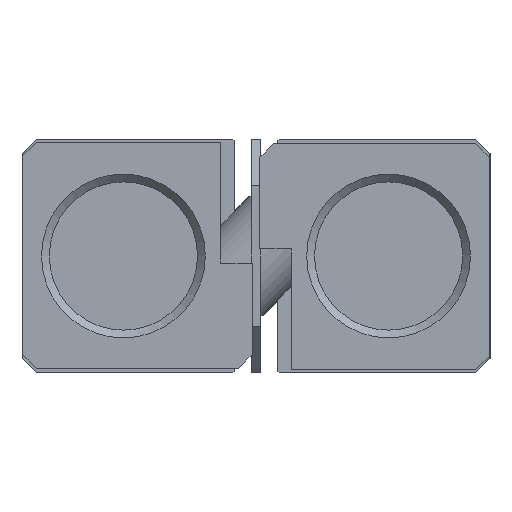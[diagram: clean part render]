
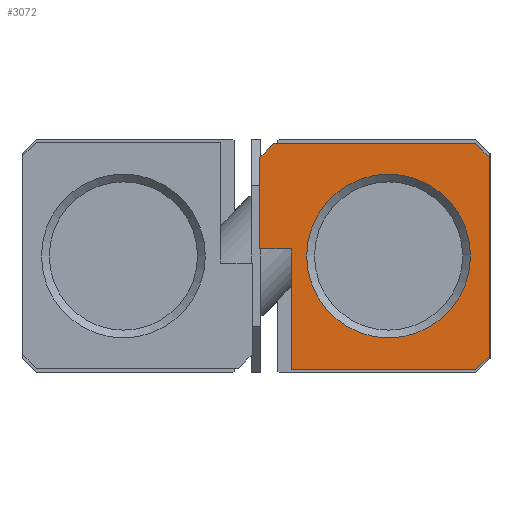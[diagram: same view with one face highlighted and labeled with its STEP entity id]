
A CAD part, left-side view. The second image highlights one B-rep face of the part: STEP entity #3072.
In plain terms, the highlighted planar face has unit normal (-1, 0, 0).
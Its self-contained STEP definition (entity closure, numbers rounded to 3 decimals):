
#124=CIRCLE('',#3279,5.25);
#312=ORIENTED_EDGE('',*,*,#1100,.F.);
#313=ORIENTED_EDGE('',*,*,#1082,.F.);
#314=ORIENTED_EDGE('',*,*,#1099,.F.);
#315=ORIENTED_EDGE('',*,*,#1097,.F.);
#316=ORIENTED_EDGE('',*,*,#1095,.F.);
#317=ORIENTED_EDGE('',*,*,#1093,.F.);
#318=ORIENTED_EDGE('',*,*,#1091,.F.);
#319=ORIENTED_EDGE('',*,*,#1089,.F.);
#320=ORIENTED_EDGE('',*,*,#1087,.F.);
#321=ORIENTED_EDGE('',*,*,#1085,.F.);
#1082=EDGE_CURVE('',#1489,#1490,#1797,.T.);
#1085=EDGE_CURVE('',#1490,#1491,#1800,.T.);
#1087=EDGE_CURVE('',#1491,#1492,#1802,.T.);
#1089=EDGE_CURVE('',#1492,#1493,#1804,.T.);
#1091=EDGE_CURVE('',#1493,#1494,#1806,.T.);
#1093=EDGE_CURVE('',#1494,#1495,#1808,.T.);
#1095=EDGE_CURVE('',#1495,#1496,#1810,.T.);
#1097=EDGE_CURVE('',#1496,#1497,#1812,.T.);
#1099=EDGE_CURVE('',#1497,#1489,#1814,.T.);
#1100=EDGE_CURVE('',#1498,#1498,#124,.T.);
#1489=VERTEX_POINT('',#4530);
#1490=VERTEX_POINT('',#4531);
#1491=VERTEX_POINT('',#4536);
#1492=VERTEX_POINT('',#4540);
#1493=VERTEX_POINT('',#4544);
#1494=VERTEX_POINT('',#4548);
#1495=VERTEX_POINT('',#4552);
#1496=VERTEX_POINT('',#4556);
#1497=VERTEX_POINT('',#4560);
#1498=VERTEX_POINT('',#4566);
#1797=LINE('',#4529,#2116);
#1800=LINE('',#4535,#2119);
#1802=LINE('',#4539,#2121);
#1804=LINE('',#4543,#2123);
#1806=LINE('',#4547,#2125);
#1808=LINE('',#4551,#2127);
#1810=LINE('',#4555,#2129);
#1812=LINE('',#4559,#2131);
#1814=LINE('',#4563,#2133);
#2116=VECTOR('',#3626,1000.);
#2119=VECTOR('',#3631,1000.);
#2121=VECTOR('',#3635,1000.);
#2123=VECTOR('',#3639,1000.);
#2125=VECTOR('',#3643,1000.);
#2127=VECTOR('',#3647,1000.);
#2129=VECTOR('',#3651,1000.);
#2131=VECTOR('',#3655,1000.);
#2133=VECTOR('',#3659,1000.);
#2410=EDGE_LOOP('',(#312));
#2411=EDGE_LOOP('',(#313,#314,#315,#316,#317,#318,#319,#320,#321));
#2679=FACE_BOUND('',#2410,.T.);
#2680=FACE_BOUND('',#2411,.T.);
#2942=PLANE('',#3278);
#3072=ADVANCED_FACE('',(#2679,#2680),#2942,.F.);
#3278=AXIS2_PLACEMENT_3D('',#4564,#3660,#3661);
#3279=AXIS2_PLACEMENT_3D('',#4565,#3662,#3663);
#3626=DIRECTION('',(0.,-1.,0.));
#3631=DIRECTION('',(0.,-0.707,-0.707));
#3635=DIRECTION('',(0.,0.,-1.));
#3639=DIRECTION('',(0.,0.707,-0.707));
#3643=DIRECTION('',(0.,1.,0.));
#3647=DIRECTION('',(0.,0.,1.));
#3651=DIRECTION('',(0.,1.,0.));
#3655=DIRECTION('',(0.,0.,1.));
#3659=DIRECTION('',(0.,-0.707,0.707));
#3660=DIRECTION('',(1.,0.,0.));
#3661=DIRECTION('',(0.,1.,0.));
#3662=DIRECTION('',(-1.,0.,0.));
#3663=DIRECTION('',(0.,0.,1.));
#4529=CARTESIAN_POINT('',(0.,-1.12,7.2));
#4530=CARTESIAN_POINT('',(0.,-1.12,7.2));
#4531=CARTESIAN_POINT('',(0.,-14.08,7.2));
#4535=CARTESIAN_POINT('',(0.,-14.08,7.2));
#4536=CARTESIAN_POINT('',(0.,-14.95,6.33));
#4539=CARTESIAN_POINT('',(0.,-14.95,6.33));
#4540=CARTESIAN_POINT('',(0.,-14.95,-6.43));
#4543=CARTESIAN_POINT('',(0.,-14.95,-6.43));
#4544=CARTESIAN_POINT('',(0.,-14.08,-7.3));
#4547=CARTESIAN_POINT('',(0.,-14.08,-7.3));
#4548=CARTESIAN_POINT('',(0.,-2.25,-7.3));
#4551=CARTESIAN_POINT('',(0.,-2.25,-7.3));
#4552=CARTESIAN_POINT('',(0.,-2.25,0.45));
#4555=CARTESIAN_POINT('',(0.,-2.25,0.45));
#4556=CARTESIAN_POINT('',(0.,-0.25,0.45));
#4559=CARTESIAN_POINT('',(0.,-0.25,0.45));
#4560=CARTESIAN_POINT('',(0.,-0.25,6.33));
#4563=CARTESIAN_POINT('',(0.,-0.25,6.33));
#4564=CARTESIAN_POINT('',(0.,0.,0.));
#4565=CARTESIAN_POINT('',(0.,-8.5,0.));
#4566=CARTESIAN_POINT('',(0.,-8.5,5.25));
